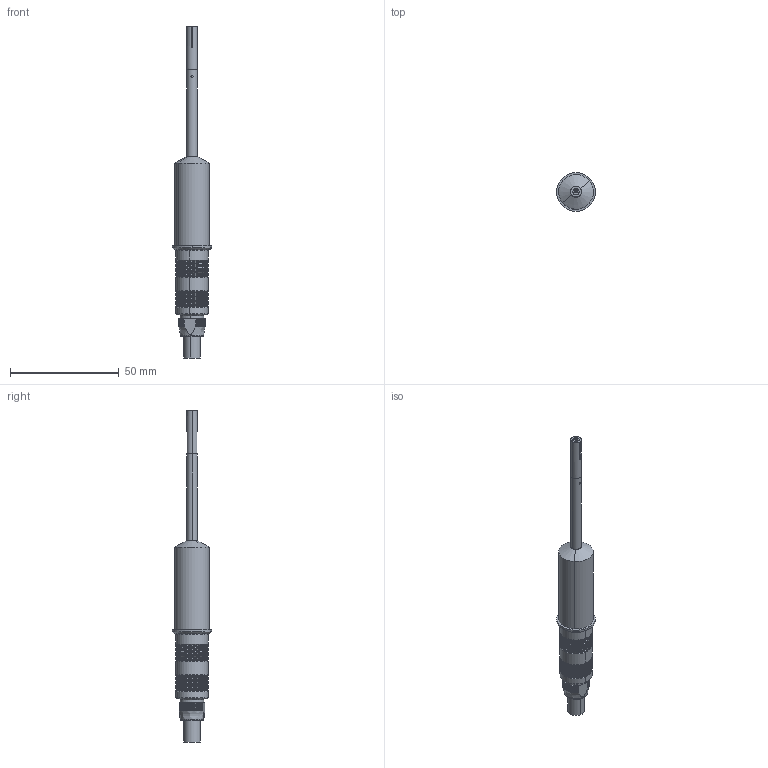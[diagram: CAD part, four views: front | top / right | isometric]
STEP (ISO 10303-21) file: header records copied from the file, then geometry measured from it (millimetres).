
FILE_DESCRIPTION (( 'STEP AP214' ), '1' );
FILE_NAME ('RISO5_lang_Stecker_gerade.STEP', '2011-02-21T00:59:46', ( '' ), ( '' ), 'SwSTEP 2.0', 'SolidWorks 2010', '' );
FILE_SCHEMA (( 'AUTOMOTIVE_DESIGN' ));
Length unit declared in the file: millimetre
Products named in the file (1): RISO5_lang_Stecker_gerade
Bounding box: 18 x 18 x 153 mm (x, y, z)
Surface area: 6004 mm2 (no closed solid volume)
Topology: 0 solids, 5 shells, 7010 faces, 14909 edges, 7830 vertices
Faces by surface type: plane 4332, bspline 2642, cylinder 28, cone 8
Entity records: 277120 total; most frequent: CARTESIAN_POINT 87014, ORIENTED_EDGE 29537, DIRECTION 18636, EDGE_CURVE 14907, AXIS2_PLACEMENT_3D 8139, VERTEX_POINT 7830, EDGE_LOOP 7020, UNCERTAINTY_MEASURE_WITH_UNIT 7012
